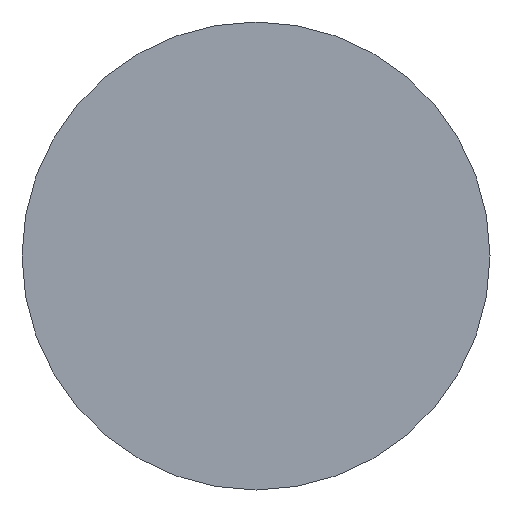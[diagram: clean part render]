
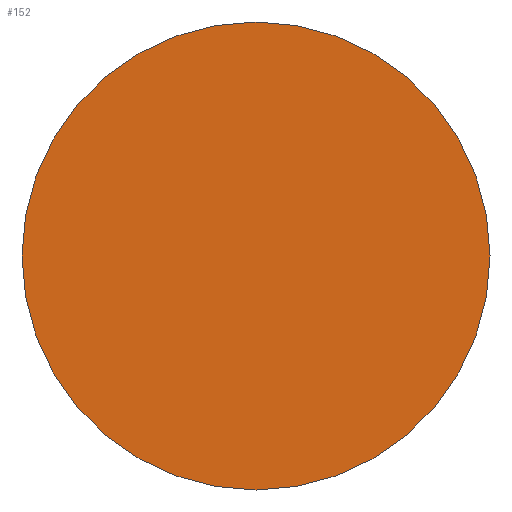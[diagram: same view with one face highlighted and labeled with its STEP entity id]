
A CAD part, front view. The second image highlights one B-rep face of the part: STEP entity #152.
In plain terms, the highlighted planar face has unit normal (0, -1, 0).
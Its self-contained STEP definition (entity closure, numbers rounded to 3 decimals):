
#15 = FACE_OUTER_BOUND ( 'NONE', #232, .T. ) ;
#16 = CARTESIAN_POINT ( 'NONE',  ( 0., 0., 4.826 ) ) ;
#17 = DIRECTION ( 'NONE',  ( 0., 0., 1. ) ) ;
#20 = DIRECTION ( 'NONE',  ( 0., 1., 0. ) ) ;
#27 = AXIS2_PLACEMENT_3D ( 'NONE', #240, #200, #17 ) ;
#32 = CIRCLE ( 'NONE', #109, 4.826 ) ;
#45 = DIRECTION ( 'NONE',  ( 0., 0., 1. ) ) ;
#60 = EDGE_CURVE ( 'NONE', #181, #101, #32, .T. ) ;
#100 = CARTESIAN_POINT ( 'NONE',  ( 0., 0., 0. ) ) ;
#101 = VERTEX_POINT ( 'NONE', #16 ) ;
#102 = CARTESIAN_POINT ( 'NONE',  ( 0., 0., -4.826 ) ) ;
#109 = AXIS2_PLACEMENT_3D ( 'NONE', #100, #173, #254 ) ;
#125 = CIRCLE ( 'NONE', #27, 4.826 ) ;
#139 = PLANE ( 'NONE',  #209 ) ;
#152 = ADVANCED_FACE ( 'NONE', ( #15 ), #139, .F. ) ;
#159 = CARTESIAN_POINT ( 'NONE',  ( 0., 0., 0. ) ) ;
#173 = DIRECTION ( 'NONE',  ( 0., 1., 0. ) ) ;
#181 = VERTEX_POINT ( 'NONE', #102 ) ;
#183 = EDGE_CURVE ( 'NONE', #101, #181, #125, .T. ) ;
#200 = DIRECTION ( 'NONE',  ( 0., 1., 0. ) ) ;
#208 = ORIENTED_EDGE ( 'NONE', *, *, #183, .F. ) ;
#209 = AXIS2_PLACEMENT_3D ( 'NONE', #159, #20, #45 ) ;
#229 = ORIENTED_EDGE ( 'NONE', *, *, #60, .F. ) ;
#232 = EDGE_LOOP ( 'NONE', ( #229, #208 ) ) ;
#240 = CARTESIAN_POINT ( 'NONE',  ( 0., 0., 0. ) ) ;
#254 = DIRECTION ( 'NONE',  ( 0., 0., 1. ) ) ;
